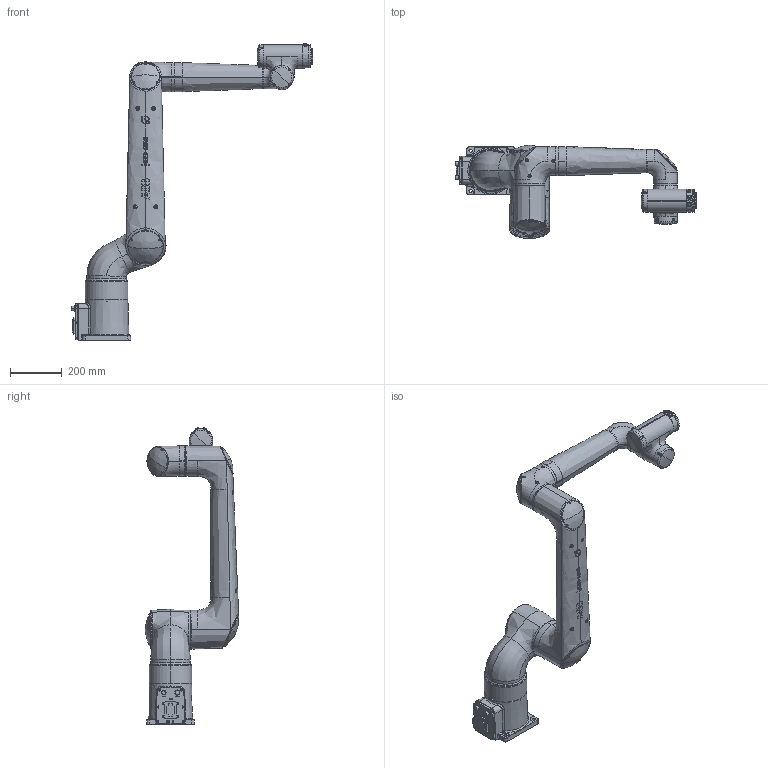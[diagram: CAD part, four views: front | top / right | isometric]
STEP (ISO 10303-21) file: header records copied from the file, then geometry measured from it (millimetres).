
FILE_DESCRIPTION (( 'STEP AP214' ), '1' );
FILE_NAME ('CRB1810_13kg-1340_OmniCore_rev00_Assembly.STEP', '2025-07-11T07:48:30', ( '' ), ( '' ), 'SwSTEP 2.0', 'SolidWorks 2022', '' );
FILE_SCHEMA (( 'AUTOMOTIVE_DESIGN' ));
Length unit declared in the file: millimetre
Products named in the file (8): CRB1810_13kg-1340_OmniCore_rev00_Assembly; CRB1810_13kg-1340_OmniCore_rev00_Link6_CAD; CRB1810_13kg-1340_OmniCore_rev00_Link3_CAD; CRB1810_13kg-1340_OmniCore_rev00_Link5_CAD; CRB1810_13kg-1340_OmniCore_rev00_Link0_CAD; CRB1810_13kg-1340_OmniCore_rev00_Link2_CAD; CRB1810_13kg-1340_OmniCore_rev00_Link1_CAD; CRB1810_13kg-1340_OmniCore_rev00_Link4_CAD
Assembly tree (7 placements, depth 2):
  CRB1810_13kg-1340_OmniCore_rev00_Assembly
    CRB1810_13kg-1340_OmniCore_rev00_Link0_CAD
    CRB1810_13kg-1340_OmniCore_rev00_Link1_CAD
    CRB1810_13kg-1340_OmniCore_rev00_Link2_CAD
    CRB1810_13kg-1340_OmniCore_rev00_Link3_CAD
    CRB1810_13kg-1340_OmniCore_rev00_Link4_CAD
    CRB1810_13kg-1340_OmniCore_rev00_Link5_CAD
    CRB1810_13kg-1340_OmniCore_rev00_Link6_CAD
Bounding box: 931.7 x 359.84 x 1144.1 mm (x, y, z)
Volume: 29867284.7 mm3; surface area: 1174569.4 mm2
Topology: 7 solids, 7 shells, 2065 faces, 5263 edges, 3399 vertices
Faces by surface type: bspline 909, plane 531, cylinder 336, cone 236, torus 49, sphere 4
Entity records: 222165 total; most frequent: CARTESIAN_POINT 178117, ORIENTED_EDGE 10438, DIRECTION 5745, EDGE_CURVE 5219, VERTEX_POINT 3399, B_SPLINE_CURVE_WITH_KNOTS 2777, EDGE_LOOP 2314, AXIS2_PLACEMENT_3D 2168
